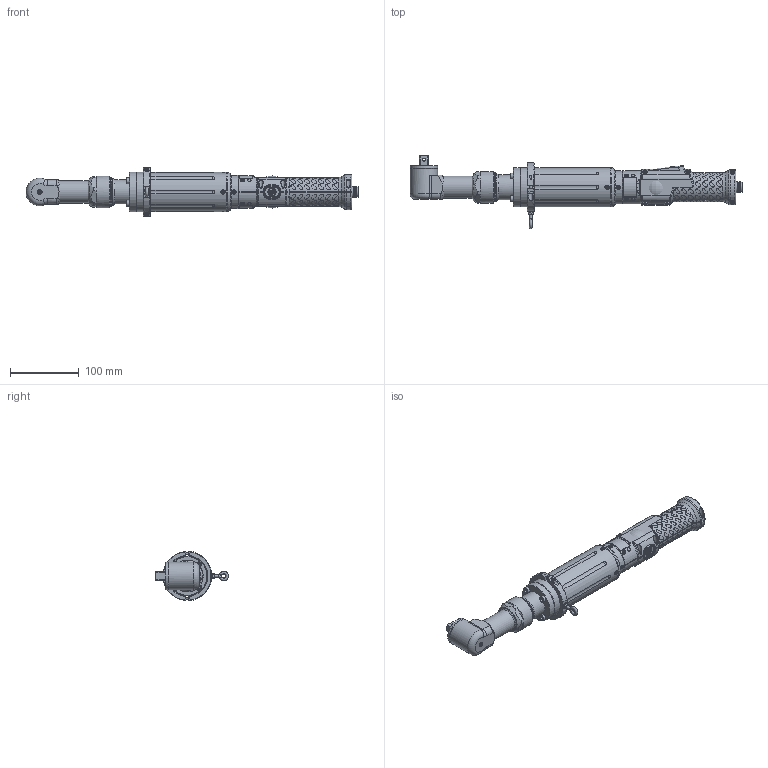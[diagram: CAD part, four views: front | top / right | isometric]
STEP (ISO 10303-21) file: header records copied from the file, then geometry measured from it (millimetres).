
FILE_DESCRIPTION (( 'STEP AP214' ), '1' );
FILE_NAME ('135070-A KDS PL70ANG -IMP. PL.STEP', '2026-04-10T12:45:58', ( '' ), ( '' ), 'SwSTEP 2.0', 'SolidWorks 2024', '' );
FILE_SCHEMA (( 'AUTOMOTIVE_DESIGN' ));
Length unit declared in the file: millimetre
Products named in the file (1): 135070-A KDS PL70ANG -IMP. PL
Bounding box: 482.2 x 106.39 x 70.89 mm (x, y, z)
Surface area: 107515.7 mm2 (no closed solid volume)
Topology: 0 solids, 79 shells, 1035 faces, 3028 edges, 2051 vertices
Faces by surface type: cylinder 324, bspline 302, plane 254, cone 78, torus 61, sphere 16
Full cylindrical faces by diameter (mm): 1 x10, 3 x4, 4 x3, 4.2 x1, 5.004 x4, 5.1 x2, 5.5 x18, 6 x6, 7 x1, 8.4 x4, 9.6 x1, 11.8 x1, 12 x1, 14.85 x2, 16 x1, 17 x1, 18 x1, 24.2 x1, 32 x1, 35 x1, 35.5 x1, 36 x1, 40 x2, 46 x1, 48 x1, 57 x3
Entity records: 85172 total; most frequent: CARTESIAN_POINT 50505, ORIENTED_EDGE 4669, DIRECTION 3942, EDGE_CURVE 2816, VERTEX_POINT 1995, AXIS2_PLACEMENT_3D 1633, EDGE_LOOP 1341, B_SPLINE_CURVE_WITH_KNOTS 1199
